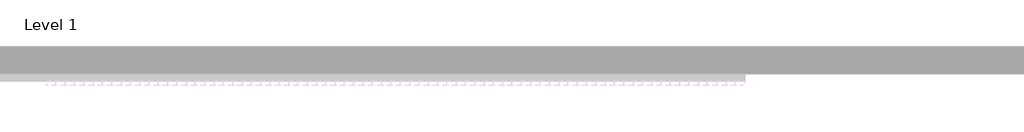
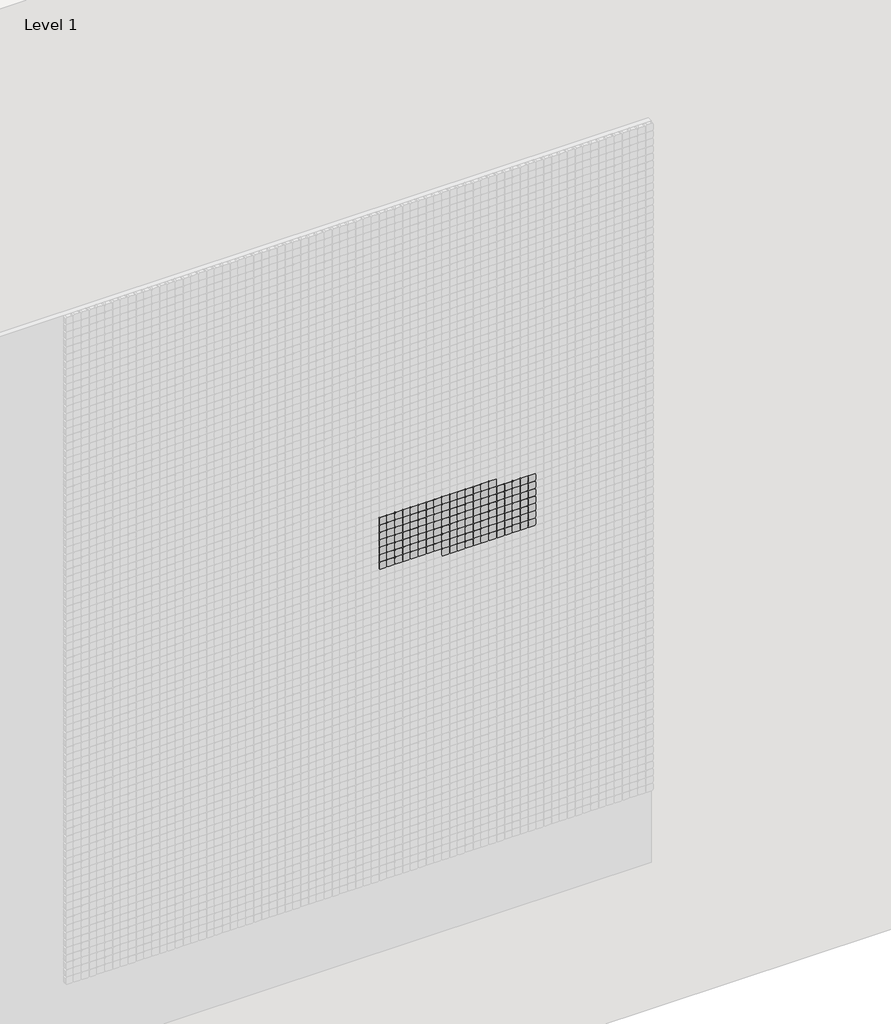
# One storey, part 54 of 71: 147 proxies.
"""IFC4 building model written with IfcOpenShell, lengths in millimetres."""

from ifc_helpers import new_model, si_unit, origin, place, context, project, spatial, transform, mapped, element, save
from components import generic_models_afde289c

model = new_model("IFC4")

# Units and contexts
model_context = context("Model", 3, world=origin())
ifc_project = project(units=[si_unit("LENGTHUNIT", "METRE", prefix="MILLI")], contexts=[model_context])

# Site, building, storey
site = spatial("IfcSite", under=ifc_project)
building = spatial("IfcBuilding", under=site)
storey = spatial("IfcBuildingStorey", under=building, Name="Level 1", Elevation=0.0)

# Proxies
placement = place(None, origin())
generic_models_shape = generic_models_afde289c(model_context)
element("IfcBuildingElementProxy", 1, Name="Pixel_M : Pixel_M", ObjectType="Pixel_M : Pixel_M", at=placement, inside=storey, context=model_context, shape_type="MappedRepresentation", body=[
    mapped(generic_models_shape, transform((8712.4280941, -75.0, 3916.3566215), x_axis=(1.0, 0.0, 0.0), y_axis=(0.0, 0.0, 1.0), z_axis=(0.0, -1.0, 0.0))),
])
element("IfcBuildingElementProxy", 2, Name="Pixel_M : Pixel_M", ObjectType="Pixel_M : Pixel_M", at=placement, inside=storey, context=model_context, shape_type="MappedRepresentation", body=[
    mapped(generic_models_shape, transform((8662.4280941, -75.0, 3916.3566215), x_axis=(1.0, 0.0, 0.0), y_axis=(0.0, 0.0, 1.0), z_axis=(0.0, -1.0, 0.0))),
])
element("IfcBuildingElementProxy", 3, Name="Pixel_M : Pixel_M", ObjectType="Pixel_M : Pixel_M", at=placement, inside=storey, context=model_context, shape_type="MappedRepresentation", body=[
    mapped(generic_models_shape, transform((8612.4280941, -75.0, 3916.3566215), x_axis=(1.0, 0.0, 0.0), y_axis=(0.0, 0.0, 1.0), z_axis=(0.0, -1.0, 0.0))),
])
element("IfcBuildingElementProxy", 4, Name="Pixel_M : Pixel_M", ObjectType="Pixel_M : Pixel_M", at=placement, inside=storey, context=model_context, shape_type="MappedRepresentation", body=[
    mapped(generic_models_shape, transform((8562.4280941, -75.0, 3916.3566215), x_axis=(1.0, 0.0, 0.0), y_axis=(0.0, 0.0, 1.0), z_axis=(0.0, -1.0, 0.0))),
])
element("IfcBuildingElementProxy", 5, Name="Pixel_M : Pixel_M", ObjectType="Pixel_M : Pixel_M", at=placement, inside=storey, context=model_context, shape_type="MappedRepresentation", body=[
    mapped(generic_models_shape, transform((8512.4280941, -75.0, 3916.3566215), x_axis=(1.0, 0.0, 0.0), y_axis=(0.0, 0.0, 1.0), z_axis=(0.0, -1.0, 0.0))),
])
element("IfcBuildingElementProxy", 6, Name="Pixel_M : Pixel_M", ObjectType="Pixel_M : Pixel_M", at=placement, inside=storey, context=model_context, shape_type="MappedRepresentation", body=[
    mapped(generic_models_shape, transform((8462.4280941, -75.0, 3916.3566215), x_axis=(1.0, 0.0, 0.0), y_axis=(0.0, 0.0, 1.0), z_axis=(0.0, -1.0, 0.0))),
])
element("IfcBuildingElementProxy", 7, Name="Pixel_M : Pixel_M", ObjectType="Pixel_M : Pixel_M", at=placement, inside=storey, context=model_context, shape_type="MappedRepresentation", body=[
    mapped(generic_models_shape, transform((8412.4280941, -75.0, 3916.3566215), x_axis=(1.0, 0.0, 0.0), y_axis=(0.0, 0.0, 1.0), z_axis=(0.0, -1.0, 0.0))),
])
element("IfcBuildingElementProxy", 8, Name="Pixel_M : Pixel_M", ObjectType="Pixel_M : Pixel_M", at=placement, inside=storey, context=model_context, shape_type="MappedRepresentation", body=[
    mapped(generic_models_shape, transform((8362.4280941, -75.0, 3916.3566215), x_axis=(1.0, 0.0, 0.0), y_axis=(0.0, 0.0, 1.0), z_axis=(0.0, -1.0, 0.0))),
])
element("IfcBuildingElementProxy", 9, Name="Pixel_M : Pixel_M", ObjectType="Pixel_M : Pixel_M", at=placement, inside=storey, context=model_context, shape_type="MappedRepresentation", body=[
    mapped(generic_models_shape, transform((8312.4280941, -75.0, 3916.3566215), x_axis=(1.0, 0.0, 0.0), y_axis=(0.0, 0.0, 1.0), z_axis=(0.0, -1.0, 0.0))),
])
element("IfcBuildingElementProxy", 10, Name="Pixel_M : Pixel_M", ObjectType="Pixel_M : Pixel_M", at=placement, inside=storey, context=model_context, shape_type="MappedRepresentation", body=[
    mapped(generic_models_shape, transform((8262.4280941, -75.0, 3916.3566215), x_axis=(1.0, 0.0, 0.0), y_axis=(0.0, 0.0, 1.0), z_axis=(0.0, -1.0, 0.0))),
])
element("IfcBuildingElementProxy", 11, Name="Pixel_M : Pixel_M", ObjectType="Pixel_M : Pixel_M", at=placement, inside=storey, context=model_context, shape_type="MappedRepresentation", body=[
    mapped(generic_models_shape, transform((8212.4280941, -75.0, 3916.3566215), x_axis=(1.0, 0.0, 0.0), y_axis=(0.0, 0.0, 1.0), z_axis=(0.0, -1.0, 0.0))),
])
element("IfcBuildingElementProxy", 12, Name="Pixel_M : Pixel_M", ObjectType="Pixel_M : Pixel_M", at=placement, inside=storey, context=model_context, shape_type="MappedRepresentation", body=[
    mapped(generic_models_shape, transform((8162.4280941, -75.0, 3916.3566215), x_axis=(1.0, 0.0, 0.0), y_axis=(0.0, 0.0, 1.0), z_axis=(0.0, -1.0, 0.0))),
])
element("IfcBuildingElementProxy", 13, Name="Pixel_M : Pixel_M", ObjectType="Pixel_M : Pixel_M", at=placement, inside=storey, context=model_context, shape_type="MappedRepresentation", body=[
    mapped(generic_models_shape, transform((8112.4280941, -75.0, 3916.3566215), x_axis=(1.0, 0.0, 0.0), y_axis=(0.0, 0.0, 1.0), z_axis=(0.0, -1.0, 0.0))),
])
element("IfcBuildingElementProxy", 14, Name="Pixel_M : Pixel_M", ObjectType="Pixel_M : Pixel_M", at=placement, inside=storey, context=model_context, shape_type="MappedRepresentation", body=[
    mapped(generic_models_shape, transform((8062.4280941, -75.0, 3916.3566215), x_axis=(1.0, 0.0, 0.0), y_axis=(0.0, 0.0, 1.0), z_axis=(0.0, -1.0, 0.0))),
])
element("IfcBuildingElementProxy", 15, Name="Pixel_M : Pixel_M", ObjectType="Pixel_M : Pixel_M", at=placement, inside=storey, context=model_context, shape_type="MappedRepresentation", body=[
    mapped(generic_models_shape, transform((8012.4280941, -75.0, 3916.3566215), x_axis=(1.0, 0.0, 0.0), y_axis=(0.0, 0.0, 1.0), z_axis=(0.0, -1.0, 0.0))),
])
element("IfcBuildingElementProxy", 16, Name="Pixel_M : Pixel_M", ObjectType="Pixel_M : Pixel_M", at=placement, inside=storey, context=model_context, shape_type="MappedRepresentation", body=[
    mapped(generic_models_shape, transform((8962.4280941, -75.0, 3866.3566215), x_axis=(1.0, 0.0, 0.0), y_axis=(0.0, 0.0, 1.0), z_axis=(0.0, -1.0, 0.0))),
])
element("IfcBuildingElementProxy", 17, Name="Pixel_M : Pixel_M", ObjectType="Pixel_M : Pixel_M", at=placement, inside=storey, context=model_context, shape_type="MappedRepresentation", body=[
    mapped(generic_models_shape, transform((8912.4280941, -75.0, 3866.3566215), x_axis=(1.0, 0.0, 0.0), y_axis=(0.0, 0.0, 1.0), z_axis=(0.0, -1.0, 0.0))),
])
element("IfcBuildingElementProxy", 18, Name="Pixel_M : Pixel_M", ObjectType="Pixel_M : Pixel_M", at=placement, inside=storey, context=model_context, shape_type="MappedRepresentation", body=[
    mapped(generic_models_shape, transform((8862.4280941, -75.0, 3866.3566215), x_axis=(1.0, 0.0, 0.0), y_axis=(0.0, 0.0, 1.0), z_axis=(0.0, -1.0, 0.0))),
])
element("IfcBuildingElementProxy", 19, Name="Pixel_M : Pixel_M", ObjectType="Pixel_M : Pixel_M", at=placement, inside=storey, context=model_context, shape_type="MappedRepresentation", body=[
    mapped(generic_models_shape, transform((8812.4280941, -75.0, 3866.3566215), x_axis=(1.0, 0.0, 0.0), y_axis=(0.0, 0.0, 1.0), z_axis=(0.0, -1.0, 0.0))),
])
element("IfcBuildingElementProxy", 20, Name="Pixel_M : Pixel_M", ObjectType="Pixel_M : Pixel_M", at=placement, inside=storey, context=model_context, shape_type="MappedRepresentation", body=[
    mapped(generic_models_shape, transform((8762.4280941, -75.0, 3866.3566215), x_axis=(1.0, 0.0, 0.0), y_axis=(0.0, 0.0, 1.0), z_axis=(0.0, -1.0, 0.0))),
])
element("IfcBuildingElementProxy", 21, Name="Pixel_M : Pixel_M", ObjectType="Pixel_M : Pixel_M", at=placement, inside=storey, context=model_context, shape_type="MappedRepresentation", body=[
    mapped(generic_models_shape, transform((8712.4280941, -75.0, 3866.3566215), x_axis=(1.0, 0.0, 0.0), y_axis=(0.0, 0.0, 1.0), z_axis=(0.0, -1.0, 0.0))),
])
element("IfcBuildingElementProxy", 22, Name="Pixel_M : Pixel_M", ObjectType="Pixel_M : Pixel_M", at=placement, inside=storey, context=model_context, shape_type="MappedRepresentation", body=[
    mapped(generic_models_shape, transform((8662.4280941, -75.0, 3866.3566215), x_axis=(1.0, 0.0, 0.0), y_axis=(0.0, 0.0, 1.0), z_axis=(0.0, -1.0, 0.0))),
])
element("IfcBuildingElementProxy", 23, Name="Pixel_M : Pixel_M", ObjectType="Pixel_M : Pixel_M", at=placement, inside=storey, context=model_context, shape_type="MappedRepresentation", body=[
    mapped(generic_models_shape, transform((8612.4280941, -75.0, 3866.3566215), x_axis=(1.0, 0.0, 0.0), y_axis=(0.0, 0.0, 1.0), z_axis=(0.0, -1.0, 0.0))),
])
element("IfcBuildingElementProxy", 24, Name="Pixel_M : Pixel_M", ObjectType="Pixel_M : Pixel_M", at=placement, inside=storey, context=model_context, shape_type="MappedRepresentation", body=[
    mapped(generic_models_shape, transform((8562.4280941, -75.0, 3866.3566215), x_axis=(1.0, 0.0, 0.0), y_axis=(0.0, 0.0, 1.0), z_axis=(0.0, -1.0, 0.0))),
])
element("IfcBuildingElementProxy", 25, Name="Pixel_M : Pixel_M", ObjectType="Pixel_M : Pixel_M", at=placement, inside=storey, context=model_context, shape_type="MappedRepresentation", body=[
    mapped(generic_models_shape, transform((8512.4280941, -75.0, 3866.3566215), x_axis=(1.0, 0.0, 0.0), y_axis=(0.0, 0.0, 1.0), z_axis=(0.0, -1.0, 0.0))),
])
element("IfcBuildingElementProxy", 26, Name="Pixel_M : Pixel_M", ObjectType="Pixel_M : Pixel_M", at=placement, inside=storey, context=model_context, shape_type="MappedRepresentation", body=[
    mapped(generic_models_shape, transform((8462.4280941, -75.0, 3866.3566215), x_axis=(1.0, 0.0, 0.0), y_axis=(0.0, 0.0, 1.0), z_axis=(0.0, -1.0, 0.0))),
])
element("IfcBuildingElementProxy", 27, Name="Pixel_M : Pixel_M", ObjectType="Pixel_M : Pixel_M", at=placement, inside=storey, context=model_context, shape_type="MappedRepresentation", body=[
    mapped(generic_models_shape, transform((8412.4280941, -75.0, 3866.3566215), x_axis=(1.0, 0.0, 0.0), y_axis=(0.0, 0.0, 1.0), z_axis=(0.0, -1.0, 0.0))),
])
element("IfcBuildingElementProxy", 28, Name="Pixel_M : Pixel_M", ObjectType="Pixel_M : Pixel_M", at=placement, inside=storey, context=model_context, shape_type="MappedRepresentation", body=[
    mapped(generic_models_shape, transform((8362.4280941, -75.0, 3866.3566215), x_axis=(1.0, 0.0, 0.0), y_axis=(0.0, 0.0, 1.0), z_axis=(0.0, -1.0, 0.0))),
])
element("IfcBuildingElementProxy", 29, Name="Pixel_M : Pixel_M", ObjectType="Pixel_M : Pixel_M", at=placement, inside=storey, context=model_context, shape_type="MappedRepresentation", body=[
    mapped(generic_models_shape, transform((8312.4280941, -75.0, 3866.3566215), x_axis=(1.0, 0.0, 0.0), y_axis=(0.0, 0.0, 1.0), z_axis=(0.0, -1.0, 0.0))),
])
element("IfcBuildingElementProxy", 30, Name="Pixel_M : Pixel_M", ObjectType="Pixel_M : Pixel_M", at=placement, inside=storey, context=model_context, shape_type="MappedRepresentation", body=[
    mapped(generic_models_shape, transform((8262.4280941, -75.0, 3866.3566215), x_axis=(1.0, 0.0, 0.0), y_axis=(0.0, 0.0, 1.0), z_axis=(0.0, -1.0, 0.0))),
])
element("IfcBuildingElementProxy", 31, Name="Pixel_M : Pixel_M", ObjectType="Pixel_M : Pixel_M", at=placement, inside=storey, context=model_context, shape_type="MappedRepresentation", body=[
    mapped(generic_models_shape, transform((8212.4280941, -75.0, 3866.3566215), x_axis=(1.0, 0.0, 0.0), y_axis=(0.0, 0.0, 1.0), z_axis=(0.0, -1.0, 0.0))),
])
element("IfcBuildingElementProxy", 32, Name="Pixel_M : Pixel_M", ObjectType="Pixel_M : Pixel_M", at=placement, inside=storey, context=model_context, shape_type="MappedRepresentation", body=[
    mapped(generic_models_shape, transform((8162.4280941, -75.0, 3866.3566215), x_axis=(1.0, 0.0, 0.0), y_axis=(0.0, 0.0, 1.0), z_axis=(0.0, -1.0, 0.0))),
])
element("IfcBuildingElementProxy", 33, Name="Pixel_M : Pixel_M", ObjectType="Pixel_M : Pixel_M", at=placement, inside=storey, context=model_context, shape_type="MappedRepresentation", body=[
    mapped(generic_models_shape, transform((8112.4280941, -75.0, 3866.3566215), x_axis=(1.0, 0.0, 0.0), y_axis=(0.0, 0.0, 1.0), z_axis=(0.0, -1.0, 0.0))),
])
element("IfcBuildingElementProxy", 34, Name="Pixel_M : Pixel_M", ObjectType="Pixel_M : Pixel_M", at=placement, inside=storey, context=model_context, shape_type="MappedRepresentation", body=[
    mapped(generic_models_shape, transform((8062.4280941, -75.0, 3866.3566215), x_axis=(1.0, 0.0, 0.0), y_axis=(0.0, 0.0, 1.0), z_axis=(0.0, -1.0, 0.0))),
])
element("IfcBuildingElementProxy", 35, Name="Pixel_M : Pixel_M", ObjectType="Pixel_M : Pixel_M", at=placement, inside=storey, context=model_context, shape_type="MappedRepresentation", body=[
    mapped(generic_models_shape, transform((8012.4280941, -75.0, 3866.3566215), x_axis=(1.0, 0.0, 0.0), y_axis=(0.0, 0.0, 1.0), z_axis=(0.0, -1.0, 0.0))),
])
element("IfcBuildingElementProxy", 36, Name="Pixel_M : Pixel_M", ObjectType="Pixel_M : Pixel_M", at=placement, inside=storey, context=model_context, shape_type="MappedRepresentation", body=[
    mapped(generic_models_shape, transform((8962.4280941, -75.0, 3816.3566215), x_axis=(1.0, 0.0, 0.0), y_axis=(0.0, 0.0, 1.0), z_axis=(0.0, -1.0, 0.0))),
])
element("IfcBuildingElementProxy", 37, Name="Pixel_M : Pixel_M", ObjectType="Pixel_M : Pixel_M", at=placement, inside=storey, context=model_context, shape_type="MappedRepresentation", body=[
    mapped(generic_models_shape, transform((8912.4280941, -75.0, 3816.3566215), x_axis=(1.0, 0.0, 0.0), y_axis=(0.0, 0.0, 1.0), z_axis=(0.0, -1.0, 0.0))),
])
element("IfcBuildingElementProxy", 38, Name="Pixel_M : Pixel_M", ObjectType="Pixel_M : Pixel_M", at=placement, inside=storey, context=model_context, shape_type="MappedRepresentation", body=[
    mapped(generic_models_shape, transform((8862.4280941, -75.0, 3816.3566215), x_axis=(1.0, 0.0, 0.0), y_axis=(0.0, 0.0, 1.0), z_axis=(0.0, -1.0, 0.0))),
])
element("IfcBuildingElementProxy", 39, Name="Pixel_M : Pixel_M", ObjectType="Pixel_M : Pixel_M", at=placement, inside=storey, context=model_context, shape_type="MappedRepresentation", body=[
    mapped(generic_models_shape, transform((8812.4280941, -75.0, 3816.3566215), x_axis=(1.0, 0.0, 0.0), y_axis=(0.0, 0.0, 1.0), z_axis=(0.0, -1.0, 0.0))),
])
element("IfcBuildingElementProxy", 40, Name="Pixel_M : Pixel_M", ObjectType="Pixel_M : Pixel_M", at=placement, inside=storey, context=model_context, shape_type="MappedRepresentation", body=[
    mapped(generic_models_shape, transform((8762.4280941, -75.0, 3816.3566215), x_axis=(1.0, 0.0, 0.0), y_axis=(0.0, 0.0, 1.0), z_axis=(0.0, -1.0, 0.0))),
])
element("IfcBuildingElementProxy", 41, Name="Pixel_M : Pixel_M", ObjectType="Pixel_M : Pixel_M", at=placement, inside=storey, context=model_context, shape_type="MappedRepresentation", body=[
    mapped(generic_models_shape, transform((8712.4280941, -75.0, 3816.3566215), x_axis=(1.0, 0.0, 0.0), y_axis=(0.0, 0.0, 1.0), z_axis=(0.0, -1.0, 0.0))),
])
element("IfcBuildingElementProxy", 42, Name="Pixel_M : Pixel_M", ObjectType="Pixel_M : Pixel_M", at=placement, inside=storey, context=model_context, shape_type="MappedRepresentation", body=[
    mapped(generic_models_shape, transform((8662.4280941, -75.0, 3816.3566215), x_axis=(1.0, 0.0, 0.0), y_axis=(0.0, 0.0, 1.0), z_axis=(0.0, -1.0, 0.0))),
])
element("IfcBuildingElementProxy", 43, Name="Pixel_M : Pixel_M", ObjectType="Pixel_M : Pixel_M", at=placement, inside=storey, context=model_context, shape_type="MappedRepresentation", body=[
    mapped(generic_models_shape, transform((8612.4280941, -75.0, 3816.3566215), x_axis=(1.0, 0.0, 0.0), y_axis=(0.0, 0.0, 1.0), z_axis=(0.0, -1.0, 0.0))),
])
element("IfcBuildingElementProxy", 44, Name="Pixel_M : Pixel_M", ObjectType="Pixel_M : Pixel_M", at=placement, inside=storey, context=model_context, shape_type="MappedRepresentation", body=[
    mapped(generic_models_shape, transform((8562.4280941, -75.0, 3816.3566215), x_axis=(1.0, 0.0, 0.0), y_axis=(0.0, 0.0, 1.0), z_axis=(0.0, -1.0, 0.0))),
])
element("IfcBuildingElementProxy", 45, Name="Pixel_M : Pixel_M", ObjectType="Pixel_M : Pixel_M", at=placement, inside=storey, context=model_context, shape_type="MappedRepresentation", body=[
    mapped(generic_models_shape, transform((8512.4280941, -75.0, 3816.3566215), x_axis=(1.0, 0.0, 0.0), y_axis=(0.0, 0.0, 1.0), z_axis=(0.0, -1.0, 0.0))),
])
element("IfcBuildingElementProxy", 46, Name="Pixel_M : Pixel_M", ObjectType="Pixel_M : Pixel_M", at=placement, inside=storey, context=model_context, shape_type="MappedRepresentation", body=[
    mapped(generic_models_shape, transform((8462.4280941, -75.0, 3816.3566215), x_axis=(1.0, 0.0, 0.0), y_axis=(0.0, 0.0, 1.0), z_axis=(0.0, -1.0, 0.0))),
])
element("IfcBuildingElementProxy", 47, Name="Pixel_M : Pixel_M", ObjectType="Pixel_M : Pixel_M", at=placement, inside=storey, context=model_context, shape_type="MappedRepresentation", body=[
    mapped(generic_models_shape, transform((8412.4280941, -75.0, 3816.3566215), x_axis=(1.0, 0.0, 0.0), y_axis=(0.0, 0.0, 1.0), z_axis=(0.0, -1.0, 0.0))),
])
element("IfcBuildingElementProxy", 48, Name="Pixel_M : Pixel_M", ObjectType="Pixel_M : Pixel_M", at=placement, inside=storey, context=model_context, shape_type="MappedRepresentation", body=[
    mapped(generic_models_shape, transform((8362.4280941, -75.0, 3816.3566215), x_axis=(1.0, 0.0, 0.0), y_axis=(0.0, 0.0, 1.0), z_axis=(0.0, -1.0, 0.0))),
])
element("IfcBuildingElementProxy", 49, Name="Pixel_M : Pixel_M", ObjectType="Pixel_M : Pixel_M", at=placement, inside=storey, context=model_context, shape_type="MappedRepresentation", body=[
    mapped(generic_models_shape, transform((8312.4280941, -75.0, 3816.3566215), x_axis=(1.0, 0.0, 0.0), y_axis=(0.0, 0.0, 1.0), z_axis=(0.0, -1.0, 0.0))),
])
element("IfcBuildingElementProxy", 50, Name="Pixel_M : Pixel_M", ObjectType="Pixel_M : Pixel_M", at=placement, inside=storey, context=model_context, shape_type="MappedRepresentation", body=[
    mapped(generic_models_shape, transform((8262.4280941, -75.0, 3816.3566215), x_axis=(1.0, 0.0, 0.0), y_axis=(0.0, 0.0, 1.0), z_axis=(0.0, -1.0, 0.0))),
])
element("IfcBuildingElementProxy", 51, Name="Pixel_M : Pixel_M", ObjectType="Pixel_M : Pixel_M", at=placement, inside=storey, context=model_context, shape_type="MappedRepresentation", body=[
    mapped(generic_models_shape, transform((8212.4280941, -75.0, 3816.3566215), x_axis=(1.0, 0.0, 0.0), y_axis=(0.0, 0.0, 1.0), z_axis=(0.0, -1.0, 0.0))),
])
element("IfcBuildingElementProxy", 52, Name="Pixel_M : Pixel_M", ObjectType="Pixel_M : Pixel_M", at=placement, inside=storey, context=model_context, shape_type="MappedRepresentation", body=[
    mapped(generic_models_shape, transform((8162.4280941, -75.0, 3816.3566215), x_axis=(1.0, 0.0, 0.0), y_axis=(0.0, 0.0, 1.0), z_axis=(0.0, -1.0, 0.0))),
])
element("IfcBuildingElementProxy", 53, Name="Pixel_M : Pixel_M", ObjectType="Pixel_M : Pixel_M", at=placement, inside=storey, context=model_context, shape_type="MappedRepresentation", body=[
    mapped(generic_models_shape, transform((8112.4280941, -75.0, 3816.3566215), x_axis=(1.0, 0.0, 0.0), y_axis=(0.0, 0.0, 1.0), z_axis=(0.0, -1.0, 0.0))),
])
element("IfcBuildingElementProxy", 54, Name="Pixel_M : Pixel_M", ObjectType="Pixel_M : Pixel_M", at=placement, inside=storey, context=model_context, shape_type="MappedRepresentation", body=[
    mapped(generic_models_shape, transform((8062.4280941, -75.0, 3816.3566215), x_axis=(1.0, 0.0, 0.0), y_axis=(0.0, 0.0, 1.0), z_axis=(0.0, -1.0, 0.0))),
])
element("IfcBuildingElementProxy", 55, Name="Pixel_M : Pixel_M", ObjectType="Pixel_M : Pixel_M", at=placement, inside=storey, context=model_context, shape_type="MappedRepresentation", body=[
    mapped(generic_models_shape, transform((8012.4280941, -75.0, 3816.3566215), x_axis=(1.0, 0.0, 0.0), y_axis=(0.0, 0.0, 1.0), z_axis=(0.0, -1.0, 0.0))),
])
element("IfcBuildingElementProxy", 56, Name="Pixel_M : Pixel_M", ObjectType="Pixel_M : Pixel_M", at=placement, inside=storey, context=model_context, shape_type="MappedRepresentation", body=[
    mapped(generic_models_shape, transform((8962.4280941, -75.0, 3766.3566215), x_axis=(1.0, 0.0, 0.0), y_axis=(0.0, 0.0, 1.0), z_axis=(0.0, -1.0, 0.0))),
])
element("IfcBuildingElementProxy", 57, Name="Pixel_M : Pixel_M", ObjectType="Pixel_M : Pixel_M", at=placement, inside=storey, context=model_context, shape_type="MappedRepresentation", body=[
    mapped(generic_models_shape, transform((8912.4280941, -75.0, 3766.3566215), x_axis=(1.0, 0.0, 0.0), y_axis=(0.0, 0.0, 1.0), z_axis=(0.0, -1.0, 0.0))),
])
element("IfcBuildingElementProxy", 58, Name="Pixel_M : Pixel_M", ObjectType="Pixel_M : Pixel_M", at=placement, inside=storey, context=model_context, shape_type="MappedRepresentation", body=[
    mapped(generic_models_shape, transform((8862.4280941, -75.0, 3766.3566215), x_axis=(1.0, 0.0, 0.0), y_axis=(0.0, 0.0, 1.0), z_axis=(0.0, -1.0, 0.0))),
])
element("IfcBuildingElementProxy", 59, Name="Pixel_M : Pixel_M", ObjectType="Pixel_M : Pixel_M", at=placement, inside=storey, context=model_context, shape_type="MappedRepresentation", body=[
    mapped(generic_models_shape, transform((8812.4280941, -75.0, 3766.3566215), x_axis=(1.0, 0.0, 0.0), y_axis=(0.0, 0.0, 1.0), z_axis=(0.0, -1.0, 0.0))),
])
element("IfcBuildingElementProxy", 60, Name="Pixel_M : Pixel_M", ObjectType="Pixel_M : Pixel_M", at=placement, inside=storey, context=model_context, shape_type="MappedRepresentation", body=[
    mapped(generic_models_shape, transform((8762.4280941, -75.0, 3766.3566215), x_axis=(1.0, 0.0, 0.0), y_axis=(0.0, 0.0, 1.0), z_axis=(0.0, -1.0, 0.0))),
])
element("IfcBuildingElementProxy", 61, Name="Pixel_M : Pixel_M", ObjectType="Pixel_M : Pixel_M", at=placement, inside=storey, context=model_context, shape_type="MappedRepresentation", body=[
    mapped(generic_models_shape, transform((8712.4280941, -75.0, 3766.3566215), x_axis=(1.0, 0.0, 0.0), y_axis=(0.0, 0.0, 1.0), z_axis=(0.0, -1.0, 0.0))),
])
element("IfcBuildingElementProxy", 62, Name="Pixel_M : Pixel_M", ObjectType="Pixel_M : Pixel_M", at=placement, inside=storey, context=model_context, shape_type="MappedRepresentation", body=[
    mapped(generic_models_shape, transform((8662.4280941, -75.0, 3766.3566215), x_axis=(1.0, 0.0, 0.0), y_axis=(0.0, 0.0, 1.0), z_axis=(0.0, -1.0, 0.0))),
])
element("IfcBuildingElementProxy", 63, Name="Pixel_M : Pixel_M", ObjectType="Pixel_M : Pixel_M", at=placement, inside=storey, context=model_context, shape_type="MappedRepresentation", body=[
    mapped(generic_models_shape, transform((8612.4280941, -75.0, 3766.3566215), x_axis=(1.0, 0.0, 0.0), y_axis=(0.0, 0.0, 1.0), z_axis=(0.0, -1.0, 0.0))),
])
element("IfcBuildingElementProxy", 64, Name="Pixel_M : Pixel_M", ObjectType="Pixel_M : Pixel_M", at=placement, inside=storey, context=model_context, shape_type="MappedRepresentation", body=[
    mapped(generic_models_shape, transform((8562.4280941, -75.0, 3766.3566215), x_axis=(1.0, 0.0, 0.0), y_axis=(0.0, 0.0, 1.0), z_axis=(0.0, -1.0, 0.0))),
])
element("IfcBuildingElementProxy", 65, Name="Pixel_M : Pixel_M", ObjectType="Pixel_M : Pixel_M", at=placement, inside=storey, context=model_context, shape_type="MappedRepresentation", body=[
    mapped(generic_models_shape, transform((8512.4280941, -75.0, 3766.3566215), x_axis=(1.0, 0.0, 0.0), y_axis=(0.0, 0.0, 1.0), z_axis=(0.0, -1.0, 0.0))),
])
element("IfcBuildingElementProxy", 66, Name="Pixel_M : Pixel_M", ObjectType="Pixel_M : Pixel_M", at=placement, inside=storey, context=model_context, shape_type="MappedRepresentation", body=[
    mapped(generic_models_shape, transform((8462.4280941, -75.0, 3766.3566215), x_axis=(1.0, 0.0, 0.0), y_axis=(0.0, 0.0, 1.0), z_axis=(0.0, -1.0, 0.0))),
])
element("IfcBuildingElementProxy", 67, Name="Pixel_M : Pixel_M", ObjectType="Pixel_M : Pixel_M", at=placement, inside=storey, context=model_context, shape_type="MappedRepresentation", body=[
    mapped(generic_models_shape, transform((8412.4280941, -75.0, 3766.3566215), x_axis=(1.0, 0.0, 0.0), y_axis=(0.0, 0.0, 1.0), z_axis=(0.0, -1.0, 0.0))),
])
element("IfcBuildingElementProxy", 68, Name="Pixel_M : Pixel_M", ObjectType="Pixel_M : Pixel_M", at=placement, inside=storey, context=model_context, shape_type="MappedRepresentation", body=[
    mapped(generic_models_shape, transform((8362.4280941, -75.0, 3766.3566215), x_axis=(1.0, 0.0, 0.0), y_axis=(0.0, 0.0, 1.0), z_axis=(0.0, -1.0, 0.0))),
])
element("IfcBuildingElementProxy", 69, Name="Pixel_M : Pixel_M", ObjectType="Pixel_M : Pixel_M", at=placement, inside=storey, context=model_context, shape_type="MappedRepresentation", body=[
    mapped(generic_models_shape, transform((8312.4280941, -75.0, 3766.3566215), x_axis=(1.0, 0.0, 0.0), y_axis=(0.0, 0.0, 1.0), z_axis=(0.0, -1.0, 0.0))),
])
element("IfcBuildingElementProxy", 70, Name="Pixel_M : Pixel_M", ObjectType="Pixel_M : Pixel_M", at=placement, inside=storey, context=model_context, shape_type="MappedRepresentation", body=[
    mapped(generic_models_shape, transform((8262.4280941, -75.0, 3766.3566215), x_axis=(1.0, 0.0, 0.0), y_axis=(0.0, 0.0, 1.0), z_axis=(0.0, -1.0, 0.0))),
])
element("IfcBuildingElementProxy", 71, Name="Pixel_M : Pixel_M", ObjectType="Pixel_M : Pixel_M", at=placement, inside=storey, context=model_context, shape_type="MappedRepresentation", body=[
    mapped(generic_models_shape, transform((8212.4280941, -75.0, 3766.3566215), x_axis=(1.0, 0.0, 0.0), y_axis=(0.0, 0.0, 1.0), z_axis=(0.0, -1.0, 0.0))),
])
element("IfcBuildingElementProxy", 72, Name="Pixel_M : Pixel_M", ObjectType="Pixel_M : Pixel_M", at=placement, inside=storey, context=model_context, shape_type="MappedRepresentation", body=[
    mapped(generic_models_shape, transform((8162.4280941, -75.0, 3766.3566215), x_axis=(1.0, 0.0, 0.0), y_axis=(0.0, 0.0, 1.0), z_axis=(0.0, -1.0, 0.0))),
])
element("IfcBuildingElementProxy", 73, Name="Pixel_M : Pixel_M", ObjectType="Pixel_M : Pixel_M", at=placement, inside=storey, context=model_context, shape_type="MappedRepresentation", body=[
    mapped(generic_models_shape, transform((8112.4280941, -75.0, 3766.3566215), x_axis=(1.0, 0.0, 0.0), y_axis=(0.0, 0.0, 1.0), z_axis=(0.0, -1.0, 0.0))),
])
element("IfcBuildingElementProxy", 74, Name="Pixel_M : Pixel_M", ObjectType="Pixel_M : Pixel_M", at=placement, inside=storey, context=model_context, shape_type="MappedRepresentation", body=[
    mapped(generic_models_shape, transform((8062.4280941, -75.0, 3766.3566215), x_axis=(1.0, 0.0, 0.0), y_axis=(0.0, 0.0, 1.0), z_axis=(0.0, -1.0, 0.0))),
])
element("IfcBuildingElementProxy", 75, Name="Pixel_M : Pixel_M", ObjectType="Pixel_M : Pixel_M", at=placement, inside=storey, context=model_context, shape_type="MappedRepresentation", body=[
    mapped(generic_models_shape, transform((8012.4280941, -75.0, 3766.3566215), x_axis=(1.0, 0.0, 0.0), y_axis=(0.0, 0.0, 1.0), z_axis=(0.0, -1.0, 0.0))),
])
element("IfcBuildingElementProxy", 76, Name="Pixel_M : Pixel_M", ObjectType="Pixel_M : Pixel_M", at=placement, inside=storey, context=model_context, shape_type="MappedRepresentation", body=[
    mapped(generic_models_shape, transform((8962.4280941, -75.0, 3716.3566215), x_axis=(1.0, 0.0, 0.0), y_axis=(0.0, 0.0, 1.0), z_axis=(0.0, -1.0, 0.0))),
])
element("IfcBuildingElementProxy", 77, Name="Pixel_M : Pixel_M", ObjectType="Pixel_M : Pixel_M", at=placement, inside=storey, context=model_context, shape_type="MappedRepresentation", body=[
    mapped(generic_models_shape, transform((8912.4280941, -75.0, 3716.3566215), x_axis=(1.0, 0.0, 0.0), y_axis=(0.0, 0.0, 1.0), z_axis=(0.0, -1.0, 0.0))),
])
element("IfcBuildingElementProxy", 78, Name="Pixel_M : Pixel_M", ObjectType="Pixel_M : Pixel_M", at=placement, inside=storey, context=model_context, shape_type="MappedRepresentation", body=[
    mapped(generic_models_shape, transform((8862.4280941, -75.0, 3716.3566215), x_axis=(1.0, 0.0, 0.0), y_axis=(0.0, 0.0, 1.0), z_axis=(0.0, -1.0, 0.0))),
])
element("IfcBuildingElementProxy", 79, Name="Pixel_M : Pixel_M", ObjectType="Pixel_M : Pixel_M", at=placement, inside=storey, context=model_context, shape_type="MappedRepresentation", body=[
    mapped(generic_models_shape, transform((8812.4280941, -75.0, 3716.3566215), x_axis=(1.0, 0.0, 0.0), y_axis=(0.0, 0.0, 1.0), z_axis=(0.0, -1.0, 0.0))),
])
element("IfcBuildingElementProxy", 80, Name="Pixel_M : Pixel_M", ObjectType="Pixel_M : Pixel_M", at=placement, inside=storey, context=model_context, shape_type="MappedRepresentation", body=[
    mapped(generic_models_shape, transform((8762.4280941, -75.0, 3716.3566215), x_axis=(1.0, 0.0, 0.0), y_axis=(0.0, 0.0, 1.0), z_axis=(0.0, -1.0, 0.0))),
])
element("IfcBuildingElementProxy", 81, Name="Pixel_M : Pixel_M", ObjectType="Pixel_M : Pixel_M", at=placement, inside=storey, context=model_context, shape_type="MappedRepresentation", body=[
    mapped(generic_models_shape, transform((8712.4280941, -75.0, 3716.3566215), x_axis=(1.0, 0.0, 0.0), y_axis=(0.0, 0.0, 1.0), z_axis=(0.0, -1.0, 0.0))),
])
element("IfcBuildingElementProxy", 82, Name="Pixel_M : Pixel_M", ObjectType="Pixel_M : Pixel_M", at=placement, inside=storey, context=model_context, shape_type="MappedRepresentation", body=[
    mapped(generic_models_shape, transform((8662.4280941, -75.0, 3716.3566215), x_axis=(1.0, 0.0, 0.0), y_axis=(0.0, 0.0, 1.0), z_axis=(0.0, -1.0, 0.0))),
])
element("IfcBuildingElementProxy", 83, Name="Pixel_M : Pixel_M", ObjectType="Pixel_M : Pixel_M", at=placement, inside=storey, context=model_context, shape_type="MappedRepresentation", body=[
    mapped(generic_models_shape, transform((8612.4280941, -75.0, 3716.3566215), x_axis=(1.0, 0.0, 0.0), y_axis=(0.0, 0.0, 1.0), z_axis=(0.0, -1.0, 0.0))),
])
element("IfcBuildingElementProxy", 84, Name="Pixel_M : Pixel_M", ObjectType="Pixel_M : Pixel_M", at=placement, inside=storey, context=model_context, shape_type="MappedRepresentation", body=[
    mapped(generic_models_shape, transform((8562.4280941, -75.0, 3716.3566215), x_axis=(1.0, 0.0, 0.0), y_axis=(0.0, 0.0, 1.0), z_axis=(0.0, -1.0, 0.0))),
])
element("IfcBuildingElementProxy", 85, Name="Pixel_M : Pixel_M", ObjectType="Pixel_M : Pixel_M", at=placement, inside=storey, context=model_context, shape_type="MappedRepresentation", body=[
    mapped(generic_models_shape, transform((8512.4280941, -75.0, 3716.3566215), x_axis=(1.0, 0.0, 0.0), y_axis=(0.0, 0.0, 1.0), z_axis=(0.0, -1.0, 0.0))),
])
element("IfcBuildingElementProxy", 86, Name="Pixel_M : Pixel_M", ObjectType="Pixel_M : Pixel_M", at=placement, inside=storey, context=model_context, shape_type="MappedRepresentation", body=[
    mapped(generic_models_shape, transform((8462.4280941, -75.0, 3716.3566215), x_axis=(1.0, 0.0, 0.0), y_axis=(0.0, 0.0, 1.0), z_axis=(0.0, -1.0, 0.0))),
])
element("IfcBuildingElementProxy", 87, Name="Pixel_M : Pixel_M", ObjectType="Pixel_M : Pixel_M", at=placement, inside=storey, context=model_context, shape_type="MappedRepresentation", body=[
    mapped(generic_models_shape, transform((8412.4280941, -75.0, 3716.3566215), x_axis=(1.0, 0.0, 0.0), y_axis=(0.0, 0.0, 1.0), z_axis=(0.0, -1.0, 0.0))),
])
element("IfcBuildingElementProxy", 88, Name="Pixel_M : Pixel_M", ObjectType="Pixel_M : Pixel_M", at=placement, inside=storey, context=model_context, shape_type="MappedRepresentation", body=[
    mapped(generic_models_shape, transform((8362.4280941, -75.0, 3716.3566215), x_axis=(1.0, 0.0, 0.0), y_axis=(0.0, 0.0, 1.0), z_axis=(0.0, -1.0, 0.0))),
])
element("IfcBuildingElementProxy", 89, Name="Pixel_M : Pixel_M", ObjectType="Pixel_M : Pixel_M", at=placement, inside=storey, context=model_context, shape_type="MappedRepresentation", body=[
    mapped(generic_models_shape, transform((8312.4280941, -75.0, 3716.3566215), x_axis=(1.0, 0.0, 0.0), y_axis=(0.0, 0.0, 1.0), z_axis=(0.0, -1.0, 0.0))),
])
element("IfcBuildingElementProxy", 90, Name="Pixel_M : Pixel_M", ObjectType="Pixel_M : Pixel_M", at=placement, inside=storey, context=model_context, shape_type="MappedRepresentation", body=[
    mapped(generic_models_shape, transform((8262.4280941, -75.0, 3716.3566215), x_axis=(1.0, 0.0, 0.0), y_axis=(0.0, 0.0, 1.0), z_axis=(0.0, -1.0, 0.0))),
])
element("IfcBuildingElementProxy", 91, Name="Pixel_M : Pixel_M", ObjectType="Pixel_M : Pixel_M", at=placement, inside=storey, context=model_context, shape_type="MappedRepresentation", body=[
    mapped(generic_models_shape, transform((8212.4280941, -75.0, 3716.3566215), x_axis=(1.0, 0.0, 0.0), y_axis=(0.0, 0.0, 1.0), z_axis=(0.0, -1.0, 0.0))),
])
element("IfcBuildingElementProxy", 92, Name="Pixel_M : Pixel_M", ObjectType="Pixel_M : Pixel_M", at=placement, inside=storey, context=model_context, shape_type="MappedRepresentation", body=[
    mapped(generic_models_shape, transform((8162.4280941, -75.0, 3716.3566215), x_axis=(1.0, 0.0, 0.0), y_axis=(0.0, 0.0, 1.0), z_axis=(0.0, -1.0, 0.0))),
])
element("IfcBuildingElementProxy", 93, Name="Pixel_M : Pixel_M", ObjectType="Pixel_M : Pixel_M", at=placement, inside=storey, context=model_context, shape_type="MappedRepresentation", body=[
    mapped(generic_models_shape, transform((8112.4280941, -75.0, 3716.3566215), x_axis=(1.0, 0.0, 0.0), y_axis=(0.0, 0.0, 1.0), z_axis=(0.0, -1.0, 0.0))),
])
element("IfcBuildingElementProxy", 94, Name="Pixel_M : Pixel_M", ObjectType="Pixel_M : Pixel_M", at=placement, inside=storey, context=model_context, shape_type="MappedRepresentation", body=[
    mapped(generic_models_shape, transform((8062.4280941, -75.0, 3716.3566215), x_axis=(1.0, 0.0, 0.0), y_axis=(0.0, 0.0, 1.0), z_axis=(0.0, -1.0, 0.0))),
])
element("IfcBuildingElementProxy", 95, Name="Pixel_M : Pixel_M", ObjectType="Pixel_M : Pixel_M", at=placement, inside=storey, context=model_context, shape_type="MappedRepresentation", body=[
    mapped(generic_models_shape, transform((8012.4280941, -75.0, 3716.3566215), x_axis=(1.0, 0.0, 0.0), y_axis=(0.0, 0.0, 1.0), z_axis=(0.0, -1.0, 0.0))),
])
element("IfcBuildingElementProxy", 96, Name="Pixel_M : Pixel_M", ObjectType="Pixel_M : Pixel_M", at=placement, inside=storey, context=model_context, shape_type="MappedRepresentation", body=[
    mapped(generic_models_shape, transform((8962.4280941, -75.0, 3666.3566215), x_axis=(1.0, 0.0, 0.0), y_axis=(0.0, 0.0, 1.0), z_axis=(0.0, -1.0, 0.0))),
])
element("IfcBuildingElementProxy", 97, Name="Pixel_M : Pixel_M", ObjectType="Pixel_M : Pixel_M", at=placement, inside=storey, context=model_context, shape_type="MappedRepresentation", body=[
    mapped(generic_models_shape, transform((8912.4280941, -75.0, 3666.3566215), x_axis=(1.0, 0.0, 0.0), y_axis=(0.0, 0.0, 1.0), z_axis=(0.0, -1.0, 0.0))),
])
element("IfcBuildingElementProxy", 98, Name="Pixel_M : Pixel_M", ObjectType="Pixel_M : Pixel_M", at=placement, inside=storey, context=model_context, shape_type="MappedRepresentation", body=[
    mapped(generic_models_shape, transform((8862.4280941, -75.0, 3666.3566215), x_axis=(1.0, 0.0, 0.0), y_axis=(0.0, 0.0, 1.0), z_axis=(0.0, -1.0, 0.0))),
])
element("IfcBuildingElementProxy", 99, Name="Pixel_M : Pixel_M", ObjectType="Pixel_M : Pixel_M", at=placement, inside=storey, context=model_context, shape_type="MappedRepresentation", body=[
    mapped(generic_models_shape, transform((8812.4280941, -75.0, 3666.3566215), x_axis=(1.0, 0.0, 0.0), y_axis=(0.0, 0.0, 1.0), z_axis=(0.0, -1.0, 0.0))),
])
element("IfcBuildingElementProxy", 100, Name="Pixel_M : Pixel_M", ObjectType="Pixel_M : Pixel_M", at=placement, inside=storey, context=model_context, shape_type="MappedRepresentation", body=[
    mapped(generic_models_shape, transform((8762.4280941, -75.0, 3666.3566215), x_axis=(1.0, 0.0, 0.0), y_axis=(0.0, 0.0, 1.0), z_axis=(0.0, -1.0, 0.0))),
])
element("IfcBuildingElementProxy", 101, Name="Pixel_M : Pixel_M", ObjectType="Pixel_M : Pixel_M", at=placement, inside=storey, context=model_context, shape_type="MappedRepresentation", body=[
    mapped(generic_models_shape, transform((8712.4280941, -75.0, 3666.3566215), x_axis=(1.0, 0.0, 0.0), y_axis=(0.0, 0.0, 1.0), z_axis=(0.0, -1.0, 0.0))),
])
element("IfcBuildingElementProxy", 102, Name="Pixel_M : Pixel_M", ObjectType="Pixel_M : Pixel_M", at=placement, inside=storey, context=model_context, shape_type="MappedRepresentation", body=[
    mapped(generic_models_shape, transform((8662.4280941, -75.0, 3666.3566215), x_axis=(1.0, 0.0, 0.0), y_axis=(0.0, 0.0, 1.0), z_axis=(0.0, -1.0, 0.0))),
])
element("IfcBuildingElementProxy", 103, Name="Pixel_M : Pixel_M", ObjectType="Pixel_M : Pixel_M", at=placement, inside=storey, context=model_context, shape_type="MappedRepresentation", body=[
    mapped(generic_models_shape, transform((8612.4280941, -75.0, 3666.3566215), x_axis=(1.0, 0.0, 0.0), y_axis=(0.0, 0.0, 1.0), z_axis=(0.0, -1.0, 0.0))),
])
element("IfcBuildingElementProxy", 104, Name="Pixel_M : Pixel_M", ObjectType="Pixel_M : Pixel_M", at=placement, inside=storey, context=model_context, shape_type="MappedRepresentation", body=[
    mapped(generic_models_shape, transform((8562.4280941, -75.0, 3666.3566215), x_axis=(1.0, 0.0, 0.0), y_axis=(0.0, 0.0, 1.0), z_axis=(0.0, -1.0, 0.0))),
])
element("IfcBuildingElementProxy", 105, Name="Pixel_M : Pixel_M", ObjectType="Pixel_M : Pixel_M", at=placement, inside=storey, context=model_context, shape_type="MappedRepresentation", body=[
    mapped(generic_models_shape, transform((8512.4280941, -75.0, 3666.3566215), x_axis=(1.0, 0.0, 0.0), y_axis=(0.0, 0.0, 1.0), z_axis=(0.0, -1.0, 0.0))),
])
element("IfcBuildingElementProxy", 106, Name="Pixel_M : Pixel_M", ObjectType="Pixel_M : Pixel_M", at=placement, inside=storey, context=model_context, shape_type="MappedRepresentation", body=[
    mapped(generic_models_shape, transform((8462.4280941, -75.0, 3666.3566215), x_axis=(1.0, 0.0, 0.0), y_axis=(0.0, 0.0, 1.0), z_axis=(0.0, -1.0, 0.0))),
])
element("IfcBuildingElementProxy", 107, Name="Pixel_M : Pixel_M", ObjectType="Pixel_M : Pixel_M", at=placement, inside=storey, context=model_context, shape_type="MappedRepresentation", body=[
    mapped(generic_models_shape, transform((8412.4280941, -75.0, 3666.3566215), x_axis=(1.0, 0.0, 0.0), y_axis=(0.0, 0.0, 1.0), z_axis=(0.0, -1.0, 0.0))),
])
element("IfcBuildingElementProxy", 108, Name="Pixel_M : Pixel_M", ObjectType="Pixel_M : Pixel_M", at=placement, inside=storey, context=model_context, shape_type="MappedRepresentation", body=[
    mapped(generic_models_shape, transform((8362.4280941, -75.0, 3666.3566215), x_axis=(1.0, 0.0, 0.0), y_axis=(0.0, 0.0, 1.0), z_axis=(0.0, -1.0, 0.0))),
])
element("IfcBuildingElementProxy", 109, Name="Pixel_M : Pixel_M", ObjectType="Pixel_M : Pixel_M", at=placement, inside=storey, context=model_context, shape_type="MappedRepresentation", body=[
    mapped(generic_models_shape, transform((8312.4280941, -75.0, 3666.3566215), x_axis=(1.0, 0.0, 0.0), y_axis=(0.0, 0.0, 1.0), z_axis=(0.0, -1.0, 0.0))),
])
element("IfcBuildingElementProxy", 110, Name="Pixel_M : Pixel_M", ObjectType="Pixel_M : Pixel_M", at=placement, inside=storey, context=model_context, shape_type="MappedRepresentation", body=[
    mapped(generic_models_shape, transform((8262.4280941, -75.0, 3666.3566215), x_axis=(1.0, 0.0, 0.0), y_axis=(0.0, 0.0, 1.0), z_axis=(0.0, -1.0, 0.0))),
])
element("IfcBuildingElementProxy", 111, Name="Pixel_M : Pixel_M", ObjectType="Pixel_M : Pixel_M", at=placement, inside=storey, context=model_context, shape_type="MappedRepresentation", body=[
    mapped(generic_models_shape, transform((8212.4280941, -75.0, 3666.3566215), x_axis=(1.0, 0.0, 0.0), y_axis=(0.0, 0.0, 1.0), z_axis=(0.0, -1.0, 0.0))),
])
element("IfcBuildingElementProxy", 112, Name="Pixel_M : Pixel_M", ObjectType="Pixel_M : Pixel_M", at=placement, inside=storey, context=model_context, shape_type="MappedRepresentation", body=[
    mapped(generic_models_shape, transform((8162.4280941, -75.0, 3666.3566215), x_axis=(1.0, 0.0, 0.0), y_axis=(0.0, 0.0, 1.0), z_axis=(0.0, -1.0, 0.0))),
])
element("IfcBuildingElementProxy", 113, Name="Pixel_M : Pixel_M", ObjectType="Pixel_M : Pixel_M", at=placement, inside=storey, context=model_context, shape_type="MappedRepresentation", body=[
    mapped(generic_models_shape, transform((8112.4280941, -75.0, 3666.3566215), x_axis=(1.0, 0.0, 0.0), y_axis=(0.0, 0.0, 1.0), z_axis=(0.0, -1.0, 0.0))),
])
element("IfcBuildingElementProxy", 114, Name="Pixel_M : Pixel_M", ObjectType="Pixel_M : Pixel_M", at=placement, inside=storey, context=model_context, shape_type="MappedRepresentation", body=[
    mapped(generic_models_shape, transform((8062.4280941, -75.0, 3666.3566215), x_axis=(1.0, 0.0, 0.0), y_axis=(0.0, 0.0, 1.0), z_axis=(0.0, -1.0, 0.0))),
])
element("IfcBuildingElementProxy", 115, Name="Pixel_M : Pixel_M", ObjectType="Pixel_M : Pixel_M", at=placement, inside=storey, context=model_context, shape_type="MappedRepresentation", body=[
    mapped(generic_models_shape, transform((8012.4280941, -75.0, 3666.3566215), x_axis=(1.0, 0.0, 0.0), y_axis=(0.0, 0.0, 1.0), z_axis=(0.0, -1.0, 0.0))),
])
element("IfcBuildingElementProxy", 116, Name="Pixel_M : Pixel_M", ObjectType="Pixel_M : Pixel_M", at=placement, inside=storey, context=model_context, shape_type="MappedRepresentation", body=[
    mapped(generic_models_shape, transform((8962.4280941, -75.0, 3616.3566215), x_axis=(1.0, 0.0, 0.0), y_axis=(0.0, 0.0, 1.0), z_axis=(0.0, -1.0, 0.0))),
])
element("IfcBuildingElementProxy", 117, Name="Pixel_M : Pixel_M", ObjectType="Pixel_M : Pixel_M", at=placement, inside=storey, context=model_context, shape_type="MappedRepresentation", body=[
    mapped(generic_models_shape, transform((8912.4280941, -75.0, 3616.3566215), x_axis=(1.0, 0.0, 0.0), y_axis=(0.0, 0.0, 1.0), z_axis=(0.0, -1.0, 0.0))),
])
element("IfcBuildingElementProxy", 118, Name="Pixel_M : Pixel_M", ObjectType="Pixel_M : Pixel_M", at=placement, inside=storey, context=model_context, shape_type="MappedRepresentation", body=[
    mapped(generic_models_shape, transform((8862.4280941, -75.0, 3616.3566215), x_axis=(1.0, 0.0, 0.0), y_axis=(0.0, 0.0, 1.0), z_axis=(0.0, -1.0, 0.0))),
])
element("IfcBuildingElementProxy", 119, Name="Pixel_M : Pixel_M", ObjectType="Pixel_M : Pixel_M", at=placement, inside=storey, context=model_context, shape_type="MappedRepresentation", body=[
    mapped(generic_models_shape, transform((8812.4280941, -75.0, 3616.3566215), x_axis=(1.0, 0.0, 0.0), y_axis=(0.0, 0.0, 1.0), z_axis=(0.0, -1.0, 0.0))),
])
element("IfcBuildingElementProxy", 120, Name="Pixel_M : Pixel_M", ObjectType="Pixel_M : Pixel_M", at=placement, inside=storey, context=model_context, shape_type="MappedRepresentation", body=[
    mapped(generic_models_shape, transform((8762.4280941, -75.0, 3616.3566215), x_axis=(1.0, 0.0, 0.0), y_axis=(0.0, 0.0, 1.0), z_axis=(0.0, -1.0, 0.0))),
])
element("IfcBuildingElementProxy", 121, Name="Pixel_M : Pixel_M", ObjectType="Pixel_M : Pixel_M", at=placement, inside=storey, context=model_context, shape_type="MappedRepresentation", body=[
    mapped(generic_models_shape, transform((8712.4280941, -75.0, 3616.3566215), x_axis=(1.0, 0.0, 0.0), y_axis=(0.0, 0.0, 1.0), z_axis=(0.0, -1.0, 0.0))),
])
element("IfcBuildingElementProxy", 122, Name="Pixel_M : Pixel_M", ObjectType="Pixel_M : Pixel_M", at=placement, inside=storey, context=model_context, shape_type="MappedRepresentation", body=[
    mapped(generic_models_shape, transform((8662.4280941, -75.0, 3616.3566215), x_axis=(1.0, 0.0, 0.0), y_axis=(0.0, 0.0, 1.0), z_axis=(0.0, -1.0, 0.0))),
])
element("IfcBuildingElementProxy", 123, Name="Pixel_M : Pixel_M", ObjectType="Pixel_M : Pixel_M", at=placement, inside=storey, context=model_context, shape_type="MappedRepresentation", body=[
    mapped(generic_models_shape, transform((8612.4280941, -75.0, 3616.3566215), x_axis=(1.0, 0.0, 0.0), y_axis=(0.0, 0.0, 1.0), z_axis=(0.0, -1.0, 0.0))),
])
element("IfcBuildingElementProxy", 124, Name="Pixel_M : Pixel_M", ObjectType="Pixel_M : Pixel_M", at=placement, inside=storey, context=model_context, shape_type="MappedRepresentation", body=[
    mapped(generic_models_shape, transform((8562.4280941, -75.0, 3616.3566215), x_axis=(1.0, 0.0, 0.0), y_axis=(0.0, 0.0, 1.0), z_axis=(0.0, -1.0, 0.0))),
])
element("IfcBuildingElementProxy", 125, Name="Pixel_M : Pixel_M", ObjectType="Pixel_M : Pixel_M", at=placement, inside=storey, context=model_context, shape_type="MappedRepresentation", body=[
    mapped(generic_models_shape, transform((8512.4280941, -75.0, 3616.3566215), x_axis=(1.0, 0.0, 0.0), y_axis=(0.0, 0.0, 1.0), z_axis=(0.0, -1.0, 0.0))),
])
element("IfcBuildingElementProxy", 126, Name="Pixel_M : Pixel_M", ObjectType="Pixel_M : Pixel_M", at=placement, inside=storey, context=model_context, shape_type="MappedRepresentation", body=[
    mapped(generic_models_shape, transform((8462.4280941, -75.0, 3616.3566215), x_axis=(1.0, 0.0, 0.0), y_axis=(0.0, 0.0, 1.0), z_axis=(0.0, -1.0, 0.0))),
])
element("IfcBuildingElementProxy", 127, Name="Pixel_M : Pixel_M", ObjectType="Pixel_M : Pixel_M", at=placement, inside=storey, context=model_context, shape_type="MappedRepresentation", body=[
    mapped(generic_models_shape, transform((8412.4280941, -75.0, 3616.3566215), x_axis=(1.0, 0.0, 0.0), y_axis=(0.0, 0.0, 1.0), z_axis=(0.0, -1.0, 0.0))),
])
element("IfcBuildingElementProxy", 128, Name="Pixel_M : Pixel_M", ObjectType="Pixel_M : Pixel_M", at=placement, inside=storey, context=model_context, shape_type="MappedRepresentation", body=[
    mapped(generic_models_shape, transform((8362.4280941, -75.0, 3616.3566215), x_axis=(1.0, 0.0, 0.0), y_axis=(0.0, 0.0, 1.0), z_axis=(0.0, -1.0, 0.0))),
])
element("IfcBuildingElementProxy", 129, Name="Pixel_M : Pixel_M", ObjectType="Pixel_M : Pixel_M", at=placement, inside=storey, context=model_context, shape_type="MappedRepresentation", body=[
    mapped(generic_models_shape, transform((8312.4280941, -75.0, 3616.3566215), x_axis=(1.0, 0.0, 0.0), y_axis=(0.0, 0.0, 1.0), z_axis=(0.0, -1.0, 0.0))),
])
element("IfcBuildingElementProxy", 130, Name="Pixel_M : Pixel_M", ObjectType="Pixel_M : Pixel_M", at=placement, inside=storey, context=model_context, shape_type="MappedRepresentation", body=[
    mapped(generic_models_shape, transform((8262.4280941, -75.0, 3616.3566215), x_axis=(1.0, 0.0, 0.0), y_axis=(0.0, 0.0, 1.0), z_axis=(0.0, -1.0, 0.0))),
])
element("IfcBuildingElementProxy", 131, Name="Pixel_M : Pixel_M", ObjectType="Pixel_M : Pixel_M", at=placement, inside=storey, context=model_context, shape_type="MappedRepresentation", body=[
    mapped(generic_models_shape, transform((8212.4280941, -75.0, 3616.3566215), x_axis=(1.0, 0.0, 0.0), y_axis=(0.0, 0.0, 1.0), z_axis=(0.0, -1.0, 0.0))),
])
element("IfcBuildingElementProxy", 132, Name="Pixel_M : Pixel_M", ObjectType="Pixel_M : Pixel_M", at=placement, inside=storey, context=model_context, shape_type="MappedRepresentation", body=[
    mapped(generic_models_shape, transform((8162.4280941, -75.0, 3616.3566215), x_axis=(1.0, 0.0, 0.0), y_axis=(0.0, 0.0, 1.0), z_axis=(0.0, -1.0, 0.0))),
])
element("IfcBuildingElementProxy", 133, Name="Pixel_M : Pixel_M", ObjectType="Pixel_M : Pixel_M", at=placement, inside=storey, context=model_context, shape_type="MappedRepresentation", body=[
    mapped(generic_models_shape, transform((8112.4280941, -75.0, 3616.3566215), x_axis=(1.0, 0.0, 0.0), y_axis=(0.0, 0.0, 1.0), z_axis=(0.0, -1.0, 0.0))),
])
element("IfcBuildingElementProxy", 134, Name="Pixel_M : Pixel_M", ObjectType="Pixel_M : Pixel_M", at=placement, inside=storey, context=model_context, shape_type="MappedRepresentation", body=[
    mapped(generic_models_shape, transform((8062.4280941, -75.0, 3616.3566215), x_axis=(1.0, 0.0, 0.0), y_axis=(0.0, 0.0, 1.0), z_axis=(0.0, -1.0, 0.0))),
])
element("IfcBuildingElementProxy", 135, Name="Pixel_M : Pixel_M", ObjectType="Pixel_M : Pixel_M", at=placement, inside=storey, context=model_context, shape_type="MappedRepresentation", body=[
    mapped(generic_models_shape, transform((8012.4280941, -75.0, 3616.3566215), x_axis=(1.0, 0.0, 0.0), y_axis=(0.0, 0.0, 1.0), z_axis=(0.0, -1.0, 0.0))),
])
element("IfcBuildingElementProxy", 136, Name="Pixel_M : Pixel_M", ObjectType="Pixel_M : Pixel_M", at=placement, inside=storey, context=model_context, shape_type="MappedRepresentation", body=[
    mapped(generic_models_shape, transform((8962.4280941, -75.0, 3566.3566215), x_axis=(1.0, 0.0, 0.0), y_axis=(0.0, 0.0, 1.0), z_axis=(0.0, -1.0, 0.0))),
])
element("IfcBuildingElementProxy", 137, Name="Pixel_M : Pixel_M", ObjectType="Pixel_M : Pixel_M", at=placement, inside=storey, context=model_context, shape_type="MappedRepresentation", body=[
    mapped(generic_models_shape, transform((8912.4280941, -75.0, 3566.3566215), x_axis=(1.0, 0.0, 0.0), y_axis=(0.0, 0.0, 1.0), z_axis=(0.0, -1.0, 0.0))),
])
element("IfcBuildingElementProxy", 138, Name="Pixel_M : Pixel_M", ObjectType="Pixel_M : Pixel_M", at=placement, inside=storey, context=model_context, shape_type="MappedRepresentation", body=[
    mapped(generic_models_shape, transform((8862.4280941, -75.0, 3566.3566215), x_axis=(1.0, 0.0, 0.0), y_axis=(0.0, 0.0, 1.0), z_axis=(0.0, -1.0, 0.0))),
])
element("IfcBuildingElementProxy", 139, Name="Pixel_M : Pixel_M", ObjectType="Pixel_M : Pixel_M", at=placement, inside=storey, context=model_context, shape_type="MappedRepresentation", body=[
    mapped(generic_models_shape, transform((8812.4280941, -75.0, 3566.3566215), x_axis=(1.0, 0.0, 0.0), y_axis=(0.0, 0.0, 1.0), z_axis=(0.0, -1.0, 0.0))),
])
element("IfcBuildingElementProxy", 140, Name="Pixel_M : Pixel_M", ObjectType="Pixel_M : Pixel_M", at=placement, inside=storey, context=model_context, shape_type="MappedRepresentation", body=[
    mapped(generic_models_shape, transform((8762.4280941, -75.0, 3566.3566215), x_axis=(1.0, 0.0, 0.0), y_axis=(0.0, 0.0, 1.0), z_axis=(0.0, -1.0, 0.0))),
])
element("IfcBuildingElementProxy", 141, Name="Pixel_M : Pixel_M", ObjectType="Pixel_M : Pixel_M", at=placement, inside=storey, context=model_context, shape_type="MappedRepresentation", body=[
    mapped(generic_models_shape, transform((8712.4280941, -75.0, 3566.3566215), x_axis=(1.0, 0.0, 0.0), y_axis=(0.0, 0.0, 1.0), z_axis=(0.0, -1.0, 0.0))),
])
element("IfcBuildingElementProxy", 142, Name="Pixel_M : Pixel_M", ObjectType="Pixel_M : Pixel_M", at=placement, inside=storey, context=model_context, shape_type="MappedRepresentation", body=[
    mapped(generic_models_shape, transform((8662.4280941, -75.0, 3566.3566215), x_axis=(1.0, 0.0, 0.0), y_axis=(0.0, 0.0, 1.0), z_axis=(0.0, -1.0, 0.0))),
])
element("IfcBuildingElementProxy", 143, Name="Pixel_M : Pixel_M", ObjectType="Pixel_M : Pixel_M", at=placement, inside=storey, context=model_context, shape_type="MappedRepresentation", body=[
    mapped(generic_models_shape, transform((8612.4280941, -75.0, 3566.3566215), x_axis=(1.0, 0.0, 0.0), y_axis=(0.0, 0.0, 1.0), z_axis=(0.0, -1.0, 0.0))),
])
element("IfcBuildingElementProxy", 144, Name="Pixel_M : Pixel_M", ObjectType="Pixel_M : Pixel_M", at=placement, inside=storey, context=model_context, shape_type="MappedRepresentation", body=[
    mapped(generic_models_shape, transform((8562.4280941, -75.0, 3566.3566215), x_axis=(1.0, 0.0, 0.0), y_axis=(0.0, 0.0, 1.0), z_axis=(0.0, -1.0, 0.0))),
])
element("IfcBuildingElementProxy", 145, Name="Pixel_M : Pixel_M", ObjectType="Pixel_M : Pixel_M", at=placement, inside=storey, context=model_context, shape_type="MappedRepresentation", body=[
    mapped(generic_models_shape, transform((8512.4280941, -75.0, 3566.3566215), x_axis=(1.0, 0.0, 0.0), y_axis=(0.0, 0.0, 1.0), z_axis=(0.0, -1.0, 0.0))),
])
element("IfcBuildingElementProxy", 146, Name="Pixel_M : Pixel_M", ObjectType="Pixel_M : Pixel_M", at=placement, inside=storey, context=model_context, shape_type="MappedRepresentation", body=[
    mapped(generic_models_shape, transform((8462.4280941, -75.0, 3566.3566215), x_axis=(1.0, 0.0, 0.0), y_axis=(0.0, 0.0, 1.0), z_axis=(0.0, -1.0, 0.0))),
])
element("IfcBuildingElementProxy", 147, Name="Pixel_M : Pixel_M", ObjectType="Pixel_M : Pixel_M", at=placement, inside=storey, context=model_context, shape_type="MappedRepresentation", body=[
    mapped(generic_models_shape, transform((8412.4280941, -75.0, 3566.3566215), x_axis=(1.0, 0.0, 0.0), y_axis=(0.0, 0.0, 1.0), z_axis=(0.0, -1.0, 0.0))),
])

save(model, "model.ifc")
